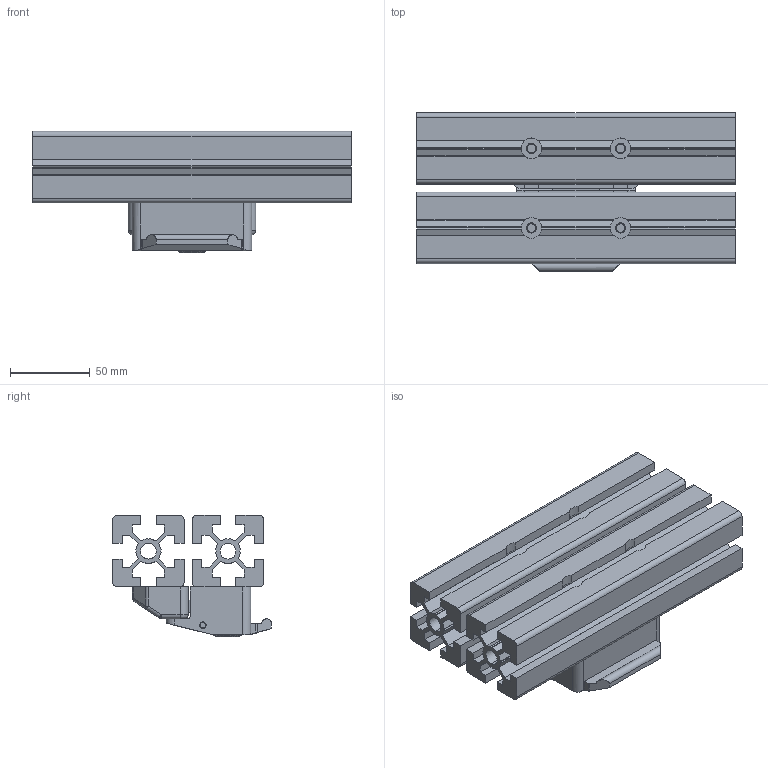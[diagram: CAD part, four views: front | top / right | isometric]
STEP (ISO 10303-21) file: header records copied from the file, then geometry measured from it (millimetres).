
FILE_DESCRIPTION (( 'STEP AP203' ), '1' );
FILE_NAME ('404020_Türschloss verschiedenschließend (verbaut).step', '2020-06-29T12:37:34', ( '' ), ( '' ), 'SwSTEP 2.0', 'SolidWorks 2017', '' );
FILE_SCHEMA (( 'CONFIG_CONTROL_DESIGN' ));
Length unit declared in the file: millimetre
Products named in the file (5): Gewindeeinsatz; Achse; Profile für darstellung_Default<Wie bearbeitet>; Türschloss verschiedenschließend; 404020_Türschloss verschiedenschließend (verbaut)
Assembly tree (7 placements, depth 2):
  404020_Türschloss verschiedenschließend (verbaut)
    Türschloss verschiedenschließend
    Gewindeeinsatz  x4
    Achse
    Profile für darstellung_Default<Wie bearbeitet>
Bounding box: 200 x 99.75 x 76.27 mm (x, y, z)
Volume: 541747.8 mm3; surface area: 195556.2 mm2
Topology: 8 solids, 9 shells, 428 faces, 1206 edges, 780 vertices
Faces by surface type: plane 302, cylinder 112, bspline 8, cone 6
Entity records: 13625 total; most frequent: CARTESIAN_POINT 3137, ORIENTED_EDGE 2188, DIRECTION 1938, EDGE_CURVE 1094, LINE 820, VECTOR 820, VERTEX_POINT 708, AXIS2_PLACEMENT_3D 559
